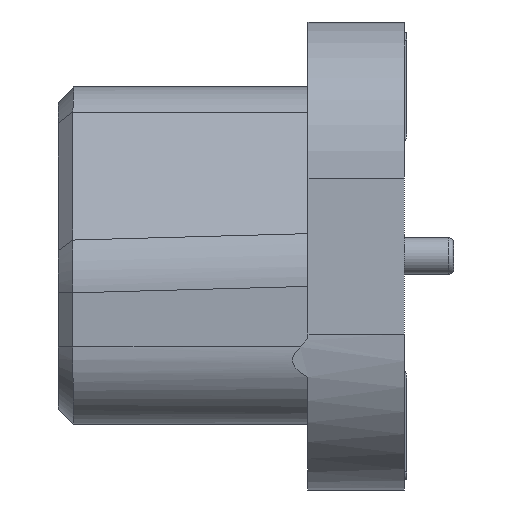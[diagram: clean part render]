
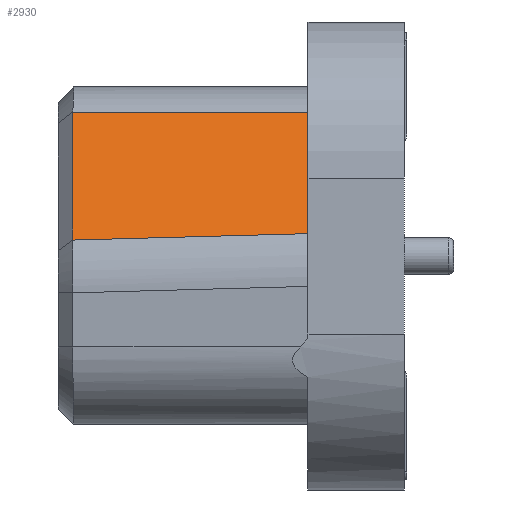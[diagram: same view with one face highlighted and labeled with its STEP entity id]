
A CAD part, left-side view. The second image highlights one B-rep face of the part: STEP entity #2930.
In plain terms, the highlighted planar face has unit normal (-0.733, 0.07, 0.677).
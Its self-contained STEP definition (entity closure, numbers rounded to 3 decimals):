
#1401 = CARTESIAN_POINT ( 'NONE',  ( -11.743, 5.839, 2.765 ) ) ;
#2488 = LINE ( 'NONE', #28927, #23492 ) ;
#2930 = ADVANCED_FACE ( 'NONE', ( #56642 ), #34808, .T. ) ;
#6412 = ORIENTED_EDGE ( 'NONE', *, *, #36505, .F. ) ;
#8566 = CARTESIAN_POINT ( 'NONE',  ( -11.725, 1.318, 3.25 ) ) ;
#9208 = VERTEX_POINT ( 'NONE', #1401 ) ;
#12027 = LINE ( 'NONE', #42483, #52349 ) ;
#12332 = LINE ( 'NONE', #8566, #41097 ) ;
#12710 = ORIENTED_EDGE ( 'NONE', *, *, #39167, .T. ) ;
#13903 = CARTESIAN_POINT ( 'NONE',  ( -14.328, 1.318, 0.43 ) ) ;
#14541 = CARTESIAN_POINT ( 'NONE',  ( -14.012, 5.839, 0.306 ) ) ;
#16344 = DIRECTION ( 'NONE',  ( -0.07, -0.997, 0.027 ) ) ;
#16368 = DIRECTION ( 'NONE',  ( -0.678, 0., -0.735 ) ) ;
#16665 = CARTESIAN_POINT ( 'NONE',  ( -12.169, 1.36, 2.765 ) ) ;
#16942 = LINE ( 'NONE', #16665, #23173 ) ;
#18645 = EDGE_CURVE ( 'NONE', #23156, #9208, #16942, .T. ) ;
#23156 = VERTEX_POINT ( 'NONE', #26326 ) ;
#23173 = VECTOR ( 'NONE', #29326, 1000. ) ;
#23492 = VECTOR ( 'NONE', #38113, 1000. ) ;
#26326 = CARTESIAN_POINT ( 'NONE',  ( -12.173, 1.318, 2.765 ) ) ;
#28927 = CARTESIAN_POINT ( 'NONE',  ( -11.493, 5.839, 3.036 ) ) ;
#29326 = DIRECTION ( 'NONE',  ( 0.095, 0.996, 0. ) ) ;
#30490 = EDGE_LOOP ( 'NONE', ( #30923, #37769, #12710, #6412 ) ) ;
#30923 = ORIENTED_EDGE ( 'NONE', *, *, #18645, .T. ) ;
#34808 = PLANE ( 'NONE',  #40160 ) ;
#36505 = EDGE_CURVE ( 'NONE', #23156, #48764, #12332, .T. ) ;
#37769 = ORIENTED_EDGE ( 'NONE', *, *, #43286, .T. ) ;
#38113 = DIRECTION ( 'NONE',  ( -0.678, 0., -0.735 ) ) ;
#39167 = EDGE_CURVE ( 'NONE', #51872, #48764, #12027, .T. ) ;
#40160 = AXIS2_PLACEMENT_3D ( 'NONE', #52315, #50493, #49648 ) ;
#41097 = VECTOR ( 'NONE', #16368, 1000. ) ;
#42483 = CARTESIAN_POINT ( 'NONE',  ( -14.321, 1.422, 0.427 ) ) ;
#43286 = EDGE_CURVE ( 'NONE', #9208, #51872, #2488, .T. ) ;
#48764 = VERTEX_POINT ( 'NONE', #13903 ) ;
#49648 = DIRECTION ( 'NONE',  ( 0.095, 0.996, 0. ) ) ;
#50493 = DIRECTION ( 'NONE',  ( -0.733, 0.07, 0.677 ) ) ;
#51872 = VERTEX_POINT ( 'NONE', #14541 ) ;
#52315 = CARTESIAN_POINT ( 'NONE',  ( -11.725, 1.318, 3.25 ) ) ;
#52349 = VECTOR ( 'NONE', #16344, 1000. ) ;
#56642 = FACE_OUTER_BOUND ( 'NONE', #30490, .T. ) ;
